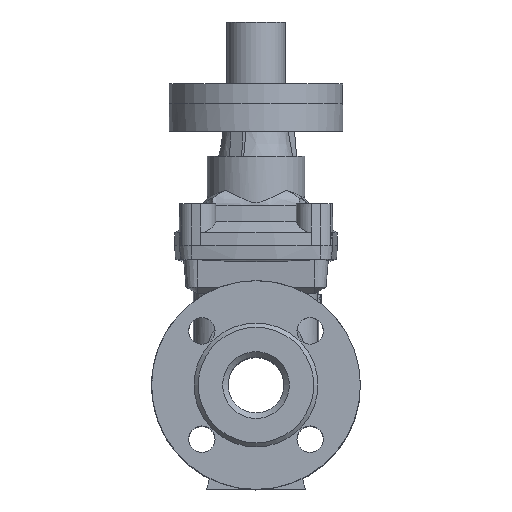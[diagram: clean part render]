
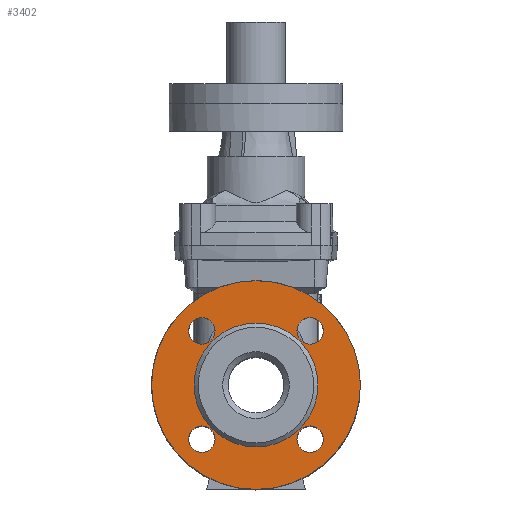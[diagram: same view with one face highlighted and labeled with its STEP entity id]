
A CAD part, top view. The second image highlights one B-rep face of the part: STEP entity #3402.
In plain terms, the highlighted planar face has unit normal (0, 0, 1).
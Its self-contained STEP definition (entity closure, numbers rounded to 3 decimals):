
#647 = DIRECTION ( 'NONE',  ( 0., 0., 1. ) ) ;
#651 = PLANE ( 'NONE',  #4064 ) ;
#653 = CARTESIAN_POINT ( 'NONE',  ( 0., 75., 117. ) ) ;
#655 = DIRECTION ( 'NONE',  ( -1., 0., 0. ) ) ;
#839 = AXIS2_PLACEMENT_3D ( 'NONE', #996, #997, #998 ) ;
#842 = AXIS2_PLACEMENT_3D ( 'NONE', #1016, #1017, #1018 ) ;
#843 = AXIS2_PLACEMENT_3D ( 'NONE', #1019, #1020, #1021 ) ;
#849 = AXIS2_PLACEMENT_3D ( 'NONE', #1053, #1054, #1055 ) ;
#857 = AXIS2_PLACEMENT_3D ( 'NONE', #1090, #1091, #1092 ) ;
#860 = AXIS2_PLACEMENT_3D ( 'NONE', #1109, #1110, #1111 ) ;
#996 = CARTESIAN_POINT ( 'NONE',  ( 0., 0., 117. ) ) ;
#997 = DIRECTION ( 'NONE',  ( 0., 0., 1. ) ) ;
#998 = DIRECTION ( 'NONE',  ( 1., 0., 0. ) ) ;
#1016 = CARTESIAN_POINT ( 'NONE',  ( 38.891, -38.891, 117. ) ) ;
#1017 = DIRECTION ( 'NONE',  ( 0., 0., -1. ) ) ;
#1018 = DIRECTION ( 'NONE',  ( 1., 0., 0. ) ) ;
#1019 = CARTESIAN_POINT ( 'NONE',  ( -38.891, 38.891, 117. ) ) ;
#1020 = DIRECTION ( 'NONE',  ( 0., 0., 1. ) ) ;
#1021 = DIRECTION ( 'NONE',  ( -1., 0., 0. ) ) ;
#1053 = CARTESIAN_POINT ( 'NONE',  ( 38.891, 38.891, 117. ) ) ;
#1054 = DIRECTION ( 'NONE',  ( 0., 0., -1. ) ) ;
#1055 = DIRECTION ( 'NONE',  ( 1., 0., 0. ) ) ;
#1090 = CARTESIAN_POINT ( 'NONE',  ( 0., 0., 117. ) ) ;
#1091 = DIRECTION ( 'NONE',  ( 0., 0., 1. ) ) ;
#1092 = DIRECTION ( 'NONE',  ( 1., 0., 0. ) ) ;
#1109 = CARTESIAN_POINT ( 'NONE',  ( -38.891, -38.891, 117. ) ) ;
#1110 = DIRECTION ( 'NONE',  ( 0., 0., 1. ) ) ;
#1111 = DIRECTION ( 'NONE',  ( -1., 0., 0. ) ) ;
#1479 = EDGE_CURVE ( 'NONE', #6835, #6835, #7339, .T. ) ;
#1485 = EDGE_CURVE ( 'NONE', #6837, #6837, #7346, .T. ) ;
#1486 = EDGE_CURVE ( 'NONE', #6838, #6838, #7351, .T. ) ;
#1499 = EDGE_CURVE ( 'NONE', #6842, #6842, #7360, .T. ) ;
#1512 = EDGE_CURVE ( 'NONE', #6849, #6849, #7377, .T. ) ;
#1520 = EDGE_CURVE ( 'NONE', #6851, #6851, #7393, .T. ) ;
#3402 = ADVANCED_FACE ( 'NONE', ( #7611, #7614, #7610, #7609, #7612, #7615 ), #651, .T. ) ;
#4064 = AXIS2_PLACEMENT_3D ( 'NONE', #653, #647, #655 ) ;
#5074 = EDGE_LOOP ( 'NONE', ( #6981 ) ) ;
#5088 = EDGE_LOOP ( 'NONE', ( #7003 ) ) ;
#5089 = EDGE_LOOP ( 'NONE', ( #6983 ) ) ;
#5090 = EDGE_LOOP ( 'NONE', ( #6980 ) ) ;
#5091 = EDGE_LOOP ( 'NONE', ( #6999 ) ) ;
#5093 = EDGE_LOOP ( 'NONE', ( #6979 ) ) ;
#6556 = CARTESIAN_POINT ( 'NONE',  ( 44.5, 0., 117. ) ) ;
#6558 = CARTESIAN_POINT ( 'NONE',  ( 48.391, -38.891, 117. ) ) ;
#6559 = CARTESIAN_POINT ( 'NONE',  ( -48.391, 38.891, 117. ) ) ;
#6563 = CARTESIAN_POINT ( 'NONE',  ( 48.391, 38.891, 117. ) ) ;
#6570 = CARTESIAN_POINT ( 'NONE',  ( 75., 0., 117. ) ) ;
#6572 = CARTESIAN_POINT ( 'NONE',  ( -48.391, -38.891, 117. ) ) ;
#6835 = VERTEX_POINT ( 'NONE', #6556 ) ;
#6837 = VERTEX_POINT ( 'NONE', #6558 ) ;
#6838 = VERTEX_POINT ( 'NONE', #6559 ) ;
#6842 = VERTEX_POINT ( 'NONE', #6563 ) ;
#6849 = VERTEX_POINT ( 'NONE', #6570 ) ;
#6851 = VERTEX_POINT ( 'NONE', #6572 ) ;
#6979 = ORIENTED_EDGE ( 'NONE', *, *, #1486, .F. ) ;
#6980 = ORIENTED_EDGE ( 'NONE', *, *, #1485, .T. ) ;
#6981 = ORIENTED_EDGE ( 'NONE', *, *, #1499, .T. ) ;
#6983 = ORIENTED_EDGE ( 'NONE', *, *, #1512, .T. ) ;
#6999 = ORIENTED_EDGE ( 'NONE', *, *, #1479, .F. ) ;
#7003 = ORIENTED_EDGE ( 'NONE', *, *, #1520, .F. ) ;
#7339 = CIRCLE ( 'NONE', #839, 44.5 ) ;
#7346 = CIRCLE ( 'NONE', #842, 9.5 ) ;
#7351 = CIRCLE ( 'NONE', #843, 9.5 ) ;
#7360 = CIRCLE ( 'NONE', #849, 9.5 ) ;
#7377 = CIRCLE ( 'NONE', #857, 75. ) ;
#7393 = CIRCLE ( 'NONE', #860, 9.5 ) ;
#7609 = FACE_OUTER_BOUND ( 'NONE', #5089, .T. ) ;
#7610 = FACE_BOUND ( 'NONE', #5091, .T. ) ;
#7611 = FACE_BOUND ( 'NONE', #5074, .T. ) ;
#7612 = FACE_BOUND ( 'NONE', #5088, .T. ) ;
#7614 = FACE_BOUND ( 'NONE', #5093, .T. ) ;
#7615 = FACE_BOUND ( 'NONE', #5090, .T. ) ;
